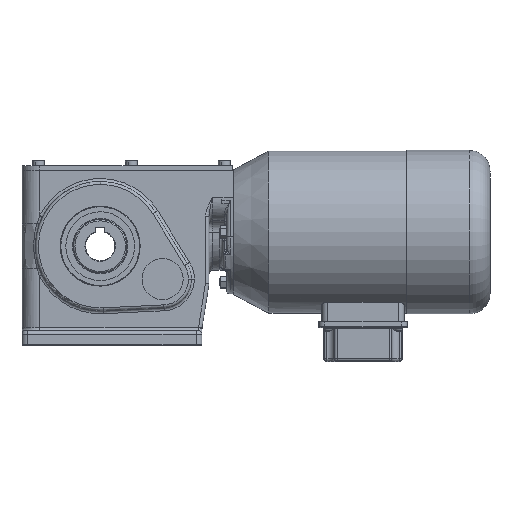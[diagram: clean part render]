
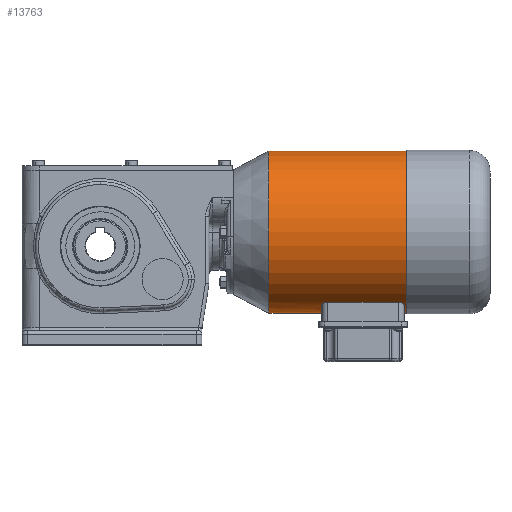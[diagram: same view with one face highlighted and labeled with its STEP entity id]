
A CAD part, top view. The second image highlights one B-rep face of the part: STEP entity #13763.
In plain terms, the highlighted cylindrical face has radius 69 mm (diameter 138 mm), a partial arc.
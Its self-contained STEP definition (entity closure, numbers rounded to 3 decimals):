
#74 = B_SPLINE_CURVE_WITH_KNOTS ( 'NONE', 3,
 ( #19873, #17008, #24587, #27775, #19531, #12107, #22221, #27444, #27280, #7067, #32286, #4714, #7402, #9255, #2190, #9430 ),
 .UNSPECIFIED., .F., .F.,
 ( 4, 2, 2, 2, 2, 2, 2, 4 ),
 ( 0., 0.002, 0.004, 0.005, 0.006, 0.006, 0.007, 0.008 ),
 .UNSPECIFIED. ) ;
#1025 = CARTESIAN_POINT ( 'NONE',  ( 0., 35., -59.464 ) ) ;
#1163 = VERTEX_POINT ( 'NONE', #9453 ) ;
#1352 = CARTESIAN_POINT ( 'NONE',  ( 73., 0., -69. ) ) ;
#1899 = CYLINDRICAL_SURFACE ( 'NONE', #8154, 69. ) ;
#2146 = CARTESIAN_POINT ( 'NONE',  ( 73.234, 31.542, -61.369 ) ) ;
#2190 = CARTESIAN_POINT ( 'NONE',  ( 138.349, 35., -59.464 ) ) ;
#2439 = CARTESIAN_POINT ( 'NONE',  ( 73., 0., 0. ) ) ;
#3258 = CARTESIAN_POINT ( 'NONE',  ( 143., 0., -69. ) ) ;
#3938 = ORIENTED_EDGE ( 'NONE', *, *, #30917, .T. ) ;
#4086 = VERTEX_POINT ( 'NONE', #11328 ) ;
#4177 = CARTESIAN_POINT ( 'NONE',  ( 143., 0., 0. ) ) ;
#4220 = CARTESIAN_POINT ( 'NONE',  ( 71., 0., 69. ) ) ;
#4347 = CARTESIAN_POINT ( 'NONE',  ( 73.03, 30.629, -61.83 ) ) ;
#4514 = CARTESIAN_POINT ( 'NONE',  ( 73.464, 32.126, -61.066 ) ) ;
#4530 = LINE ( 'NONE', #30422, #27038 ) ;
#4674 = CARTESIAN_POINT ( 'NONE',  ( 73.948, 32.946, -60.627 ) ) ;
#4714 = CARTESIAN_POINT ( 'NONE',  ( 139.704, 34.713, -59.632 ) ) ;
#5449 = CARTESIAN_POINT ( 'NONE',  ( 71., 0., -69. ) ) ;
#5841 = ORIENTED_EDGE ( 'NONE', *, *, #15773, .T. ) ;
#6071 = VECTOR ( 'NONE', #6757, 1000. ) ;
#6076 = CIRCLE ( 'NONE', #22202, 69. ) ;
#6252 = CARTESIAN_POINT ( 'NONE',  ( 188., 0., -69. ) ) ;
#6260 = CARTESIAN_POINT ( 'NONE',  ( 0., 0., -69. ) ) ;
#6364 = ORIENTED_EDGE ( 'NONE', *, *, #8576, .T. ) ;
#6757 = DIRECTION ( 'NONE',  ( -1., 0., 0. ) ) ;
#7015 = AXIS2_PLACEMENT_3D ( 'NONE', #28368, #28866, #16222 ) ;
#7029 = CARTESIAN_POINT ( 'NONE',  ( 73.608, 32.411, -60.915 ) ) ;
#7067 = CARTESIAN_POINT ( 'NONE',  ( 140.327, 34.429, -59.797 ) ) ;
#7204 = CARTESIAN_POINT ( 'NONE',  ( 74.591, 33.672, -60.227 ) ) ;
#7402 = CARTESIAN_POINT ( 'NONE',  ( 139.379, 34.818, -59.571 ) ) ;
#8154 = AXIS2_PLACEMENT_3D ( 'NONE', #27807, #11964, #22587 ) ;
#8414 = DIRECTION ( 'NONE',  ( -1., 0., 0. ) ) ;
#8576 = EDGE_CURVE ( 'NONE', #1163, #14060, #26900, .T. ) ;
#8889 = DIRECTION ( 'NONE',  ( 0., 0., -1. ) ) ;
#9047 = CARTESIAN_POINT ( 'NONE',  ( 75.379, 34.271, -59.888 ) ) ;
#9132 = CARTESIAN_POINT ( 'NONE',  ( 143., 30., -62.137 ) ) ;
#9255 = CARTESIAN_POINT ( 'NONE',  ( 138.704, 34.962, -59.487 ) ) ;
#9292 = B_SPLINE_CURVE_WITH_KNOTS ( 'NONE', 3,
 ( #9386, #24550, #29899, #27238, #30227, #19822, #9047, #19490, #7204, #17465, #4674, #7029, #4514, #2146, #12228, #4347, #16961, #25202 ),
 .UNSPECIFIED., .F., .F.,
 ( 4, 2, 2, 2, 2, 2, 2, 2, 4 ),
 ( 0.008, 0.009, 0.01, 0.011, 0.012, 0.014, 0.015, 0.016, 0.017 ),
 .UNSPECIFIED. ) ;
#9361 = EDGE_CURVE ( 'NONE', #14060, #28379, #24758, .T. ) ;
#9386 = CARTESIAN_POINT ( 'NONE',  ( 78., 35., -59.464 ) ) ;
#9430 = CARTESIAN_POINT ( 'NONE',  ( 138., 35., -59.464 ) ) ;
#9453 = CARTESIAN_POINT ( 'NONE',  ( 188., 0., 69. ) ) ;
#10154 = CARTESIAN_POINT ( 'NONE',  ( 138., 35., -59.464 ) ) ;
#10972 = EDGE_CURVE ( 'NONE', #1163, #16671, #4530, .T. ) ;
#11328 = CARTESIAN_POINT ( 'NONE',  ( 78., 35., -59.464 ) ) ;
#11964 = DIRECTION ( 'NONE',  ( -1., 0., 0. ) ) ;
#12011 = VERTEX_POINT ( 'NONE', #1352 ) ;
#12107 = CARTESIAN_POINT ( 'NONE',  ( 141.407, 33.674, -60.226 ) ) ;
#12228 = CARTESIAN_POINT ( 'NONE',  ( 73.147, 31.243, -61.522 ) ) ;
#13476 = ORIENTED_EDGE ( 'NONE', *, *, #9361, .T. ) ;
#13763 = ADVANCED_FACE ( 'NONE', ( #27320 ), #1899, .T. ) ;
#13795 = ORIENTED_EDGE ( 'NONE', *, *, #28957, .T. ) ;
#14060 = VERTEX_POINT ( 'NONE', #6252 ) ;
#15417 = EDGE_CURVE ( 'NONE', #33197, #17181, #74, .T. ) ;
#15773 = EDGE_CURVE ( 'NONE', #4086, #20841, #9292, .T. ) ;
#15792 = LINE ( 'NONE', #19001, #18449 ) ;
#16222 = DIRECTION ( 'NONE',  ( 0., 0., 1. ) ) ;
#16478 = ORIENTED_EDGE ( 'NONE', *, *, #10972, .F. ) ;
#16671 = VERTEX_POINT ( 'NONE', #4220 ) ;
#16725 = ORIENTED_EDGE ( 'NONE', *, *, #30099, .T. ) ;
#16961 = CARTESIAN_POINT ( 'NONE',  ( 73., 30.313, -61.986 ) ) ;
#17008 = CARTESIAN_POINT ( 'NONE',  ( 143., 30.635, -61.831 ) ) ;
#17181 = VERTEX_POINT ( 'NONE', #10154 ) ;
#17465 = CARTESIAN_POINT ( 'NONE',  ( 74.144, 33.199, -60.489 ) ) ;
#18449 = VECTOR ( 'NONE', #23909, 1000. ) ;
#19001 = CARTESIAN_POINT ( 'NONE',  ( 0., 0., -69. ) ) ;
#19490 = CARTESIAN_POINT ( 'NONE',  ( 74.839, 33.888, -60.105 ) ) ;
#19531 = CARTESIAN_POINT ( 'NONE',  ( 142.081, 32.961, -60.621 ) ) ;
#19822 = CARTESIAN_POINT ( 'NONE',  ( 75.675, 34.44, -59.791 ) ) ;
#19844 = DIRECTION ( 'NONE',  ( -1., 0., 0. ) ) ;
#19873 = CARTESIAN_POINT ( 'NONE',  ( 143., 30., -62.137 ) ) ;
#20104 = ORIENTED_EDGE ( 'NONE', *, *, #21600, .T. ) ;
#20197 = DIRECTION ( 'NONE',  ( -1., 0., 0. ) ) ;
#20841 = VERTEX_POINT ( 'NONE', #27813 ) ;
#21600 = EDGE_CURVE ( 'NONE', #28379, #33197, #32267, .T. ) ;
#22202 = AXIS2_PLACEMENT_3D ( 'NONE', #2439, #28002, #31176 ) ;
#22221 = CARTESIAN_POINT ( 'NONE',  ( 141.161, 33.888, -60.105 ) ) ;
#22587 = DIRECTION ( 'NONE',  ( 0., 0., 1. ) ) ;
#22807 = EDGE_LOOP ( 'NONE', ( #6364, #13476, #20104, #25958, #13795, #5841, #16725, #3938, #31253, #16478 ) ) ;
#23909 = DIRECTION ( 'NONE',  ( -1., 0., 0. ) ) ;
#24209 = AXIS2_PLACEMENT_3D ( 'NONE', #27427, #20197, #32754 ) ;
#24550 = CARTESIAN_POINT ( 'NONE',  ( 77.652, 35., -59.464 ) ) ;
#24587 = CARTESIAN_POINT ( 'NONE',  ( 142.883, 31.247, -61.523 ) ) ;
#24754 = CIRCLE ( 'NONE', #24209, 69. ) ;
#24758 = LINE ( 'NONE', #6260, #6071 ) ;
#24787 = AXIS2_PLACEMENT_3D ( 'NONE', #4177, #30064, #8889 ) ;
#25202 = CARTESIAN_POINT ( 'NONE',  ( 73., 30., -62.137 ) ) ;
#25958 = ORIENTED_EDGE ( 'NONE', *, *, #15417, .T. ) ;
#26657 = EDGE_CURVE ( 'NONE', #16671, #28360, #24754, .T. ) ;
#26900 = CIRCLE ( 'NONE', #7015, 69. ) ;
#27022 = VECTOR ( 'NONE', #8414, 1000. ) ;
#27038 = VECTOR ( 'NONE', #19844, 1000. ) ;
#27238 = CARTESIAN_POINT ( 'NONE',  ( 76.623, 34.819, -59.57 ) ) ;
#27280 = CARTESIAN_POINT ( 'NONE',  ( 140.619, 34.263, -59.892 ) ) ;
#27320 = FACE_OUTER_BOUND ( 'NONE', #22807, .T. ) ;
#27427 = CARTESIAN_POINT ( 'NONE',  ( 71., 0., 0. ) ) ;
#27444 = CARTESIAN_POINT ( 'NONE',  ( 140.758, 34.173, -59.943 ) ) ;
#27775 = CARTESIAN_POINT ( 'NONE',  ( 142.418, 32.426, -60.91 ) ) ;
#27807 = CARTESIAN_POINT ( 'NONE',  ( 0., 0., 0. ) ) ;
#27813 = CARTESIAN_POINT ( 'NONE',  ( 73., 30., -62.137 ) ) ;
#28002 = DIRECTION ( 'NONE',  ( -1., 0., 0. ) ) ;
#28360 = VERTEX_POINT ( 'NONE', #5449 ) ;
#28368 = CARTESIAN_POINT ( 'NONE',  ( 188., 0., 0. ) ) ;
#28379 = VERTEX_POINT ( 'NONE', #3258 ) ;
#28866 = DIRECTION ( 'NONE',  ( -1., 0., 0. ) ) ;
#28957 = EDGE_CURVE ( 'NONE', #17181, #4086, #31616, .T. ) ;
#29899 = CARTESIAN_POINT ( 'NONE',  ( 77.307, 34.964, -59.485 ) ) ;
#30064 = DIRECTION ( 'NONE',  ( 1., 0., 0. ) ) ;
#30099 = EDGE_CURVE ( 'NONE', #20841, #12011, #6076, .T. ) ;
#30227 = CARTESIAN_POINT ( 'NONE',  ( 76.297, 34.713, -59.632 ) ) ;
#30422 = CARTESIAN_POINT ( 'NONE',  ( 0., 0., 69. ) ) ;
#30917 = EDGE_CURVE ( 'NONE', #12011, #28360, #15792, .T. ) ;
#31176 = DIRECTION ( 'NONE',  ( 0., -1., 0. ) ) ;
#31253 = ORIENTED_EDGE ( 'NONE', *, *, #26657, .F. ) ;
#31616 = LINE ( 'NONE', #1025, #27022 ) ;
#32267 = CIRCLE ( 'NONE', #24787, 69. ) ;
#32286 = CARTESIAN_POINT ( 'NONE',  ( 140.175, 34.506, -59.753 ) ) ;
#32754 = DIRECTION ( 'NONE',  ( 0., 0., 1. ) ) ;
#33197 = VERTEX_POINT ( 'NONE', #9132 ) ;
